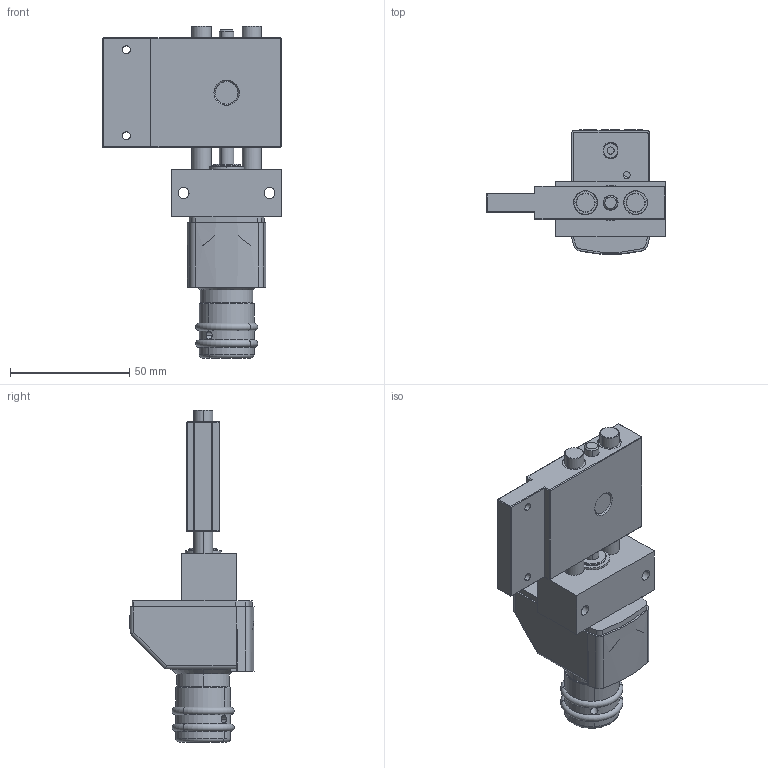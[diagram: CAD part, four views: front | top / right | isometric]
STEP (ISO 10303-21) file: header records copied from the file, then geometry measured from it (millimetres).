
FILE_DESCRIPTION (( 'STEP AP203' ), '1' );
FILE_NAME ('KT1408-KR-PAE-Kreuztisch.STEP', '2016-01-15T16:48:20', ( '' ), ( '' ), 'SwSTEP 2.0', 'SolidWorks 2014', '' );
FILE_SCHEMA (( 'CONFIG_CONTROL_DESIGN' ));
Length unit declared in the file: millimetre
Products named in the file (4): KT1408-KR-PAE-Kreuztisch; PT1408-000-01-Festteil-PA(E); PAE0812-DT-000-Elektronischer-Positionsanzeiger-Komplett_n_Standard; KT08-000-02-K-Schlitten-komplett
Assembly tree (3 placements, depth 2):
  KT1408-KR-PAE-Kreuztisch
    PT1408-000-01-Festteil-PA(E)
    PAE0812-DT-000-Elektronischer-Positionsanzeiger-Komplett_n_Standard
    KT08-000-02-K-Schlitten-komplett
Bounding box: 75 x 51.97 x 139.13 mm (x, y, z)
Volume: 115374.3 mm3; surface area: 40609.1 mm2
Topology: 3 solids, 8 shells, 750 faces, 1882 edges, 1219 vertices
Faces by surface type: plane 417, cylinder 219, cone 104, torus 6, sphere 4
Entity records: 23317 total; most frequent: CARTESIAN_POINT 4452, DIRECTION 3929, ORIENTED_EDGE 3752, EDGE_CURVE 1876, AXIS2_PLACEMENT_3D 1364, VERTEX_POINT 1219, LINE 1201, VECTOR 1201
